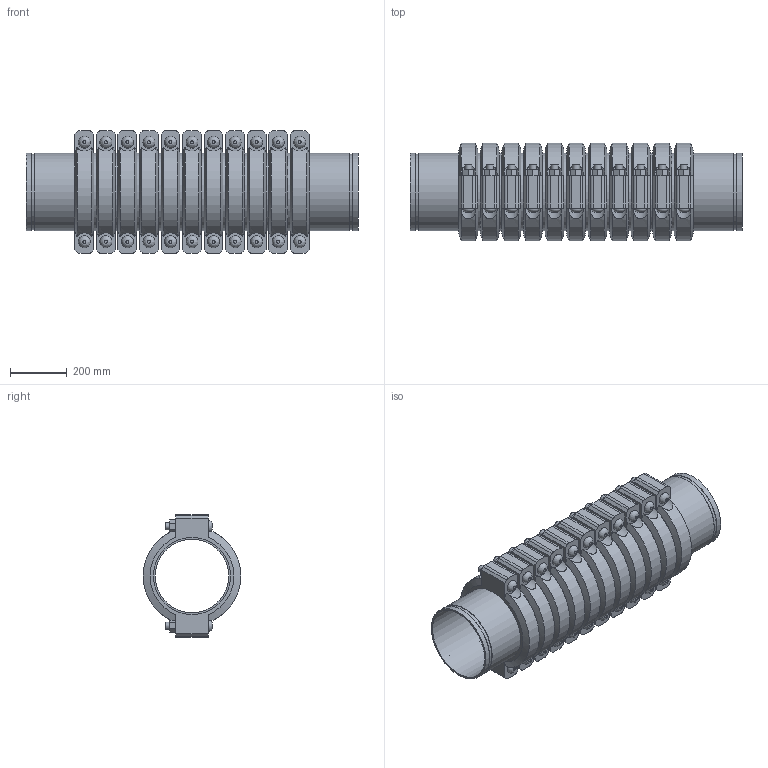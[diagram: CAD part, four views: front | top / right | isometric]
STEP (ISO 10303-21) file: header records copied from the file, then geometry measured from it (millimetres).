
FILE_DESCRIPTION(/* description */ ('VIC EXPANSION JOINT 11 COUPLINGS EXPANDED STYLE 155 (OGS)','CAx-IF Rec.Pracs.---Representation and Presentation of Product Manufacturing Information (PMI)---4.0---2014-10-13'),/* implementation_level */ '2;1');
FILE_NAME(/* name */ 'C:\Users\kkamble\AppData\Roaming\Autodesk\ApplicationPlugins\Victaulic.Temp\A474\Victaulic_IPS_Expansion Joint_Expanded_11 Couplings_Style 155 (OGS)_10 (250).stp',/* time_stamp */ '2021-06-26T23:52:39+02:00',/* author */ ('kkamble'),/* organization */ ('Victaulic'),/* preprocessor_version */ 'ST-DEVELOPER v17.2',/* originating_system */ 'Autodesk Inventor 2019',/* authorisation */ '');
FILE_SCHEMA (('AP242_MANAGED_MODEL_BASED_3D_ENGINEERING_MIM_LF { 1 0 10303 442 1 1 4 }'));
Length unit declared in the file: inch
Products named in the file (4): 155-10.0; Nipple-10.0; Nipple-10.0_1; 077-10.0
Assembly tree (23 placements, depth 2):
  155-10.0
    Nipple-10.0  x2
    Nipple-10.0_1  x10
    077-10.0  x11
Bounding box: 1174.75 x 344.9 x 435.1 mm (x, y, z)
Volume: 37714539.5 mm3; surface area: 5210510.7 mm2
Topology: 23 solids, 45 shells, 815 faces, 1955 edges, 1366 vertices
Faces by surface type: plane 468, cylinder 281, cone 44, bspline 22
Full cylindrical faces by diameter (mm): 25.4 x44, 27.432 x22, 260.35 x12, 264.16 x11, 268.275 x24, 273.05 x58
Entity records: 3169 total; most frequent: CARTESIAN_POINT 687, DIRECTION 501, ORIENTED_EDGE 410, AXIS2_PLACEMENT_3D 206, EDGE_CURVE 205, VERTEX_POINT 146, EDGE_LOOP 111, CIRCLE 96
